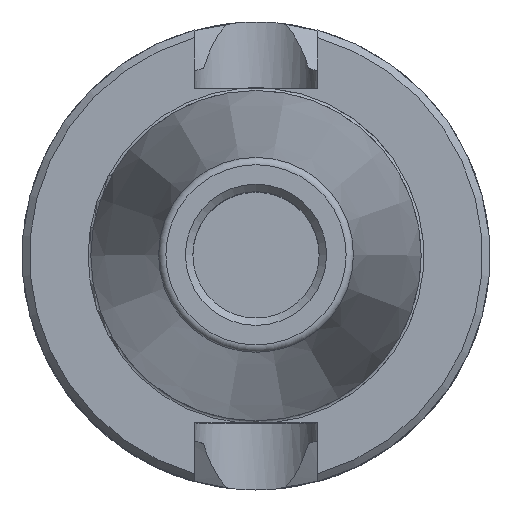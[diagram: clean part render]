
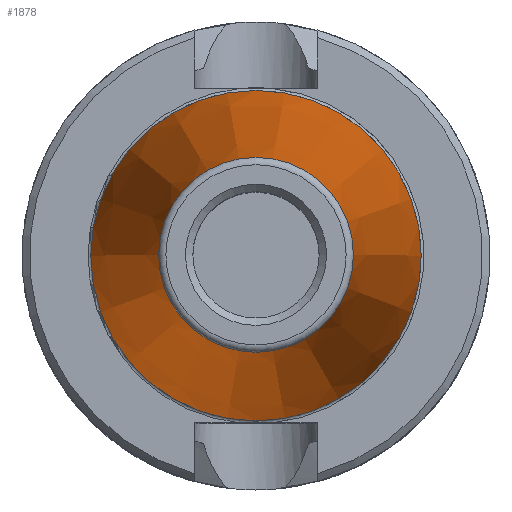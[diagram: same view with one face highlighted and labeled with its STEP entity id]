
A CAD part, top view. The second image highlights one B-rep face of the part: STEP entity #1878.
In plain terms, the highlighted conical face has half-angle 7.978 degrees and reference radius 17.625 mm.
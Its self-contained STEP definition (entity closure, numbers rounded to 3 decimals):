
#64=CONICAL_SURFACE('',#2100,17.625,0.139);
#196=CIRCLE('',#2094,22.25);
#197=CIRCLE('',#2095,22.25);
#199=CIRCLE('',#2098,13.121);
#200=CIRCLE('',#2099,13.121);
#358=FACE_OUTER_BOUND('',#467,.T.);
#467=EDGE_LOOP('',(#1586,#1587,#1588,#1589,#1590,#1591));
#583=LINE('',#3862,#707);
#707=VECTOR('',#2501,17.625);
#877=VERTEX_POINT('',#3850);
#878=VERTEX_POINT('',#3851);
#879=VERTEX_POINT('',#3856);
#880=VERTEX_POINT('',#3858);
#1123=EDGE_CURVE('',#877,#878,#196,.T.);
#1124=EDGE_CURVE('',#878,#877,#197,.T.);
#1127=EDGE_CURVE('',#879,#880,#199,.T.);
#1128=EDGE_CURVE('',#880,#879,#200,.T.);
#1129=EDGE_CURVE('',#879,#878,#583,.T.);
#1586=ORIENTED_EDGE('',*,*,#1128,.F.);
#1587=ORIENTED_EDGE('',*,*,#1127,.F.);
#1588=ORIENTED_EDGE('',*,*,#1129,.T.);
#1589=ORIENTED_EDGE('',*,*,#1124,.T.);
#1590=ORIENTED_EDGE('',*,*,#1123,.T.);
#1591=ORIENTED_EDGE('',*,*,#1129,.F.);
#1878=ADVANCED_FACE('',(#358),#64,.T.);
#2094=AXIS2_PLACEMENT_3D('',#3852,#2486,#2487);
#2095=AXIS2_PLACEMENT_3D('',#3853,#2488,#2489);
#2098=AXIS2_PLACEMENT_3D('',#3859,#2495,#2496);
#2099=AXIS2_PLACEMENT_3D('',#3860,#2497,#2498);
#2100=AXIS2_PLACEMENT_3D('',#3861,#2499,#2500);
#2486=DIRECTION('center_axis',(0.,0.,1.));
#2487=DIRECTION('ref_axis',(1.,0.,0.));
#2488=DIRECTION('center_axis',(0.,0.,1.));
#2489=DIRECTION('ref_axis',(1.,0.,0.));
#2495=DIRECTION('center_axis',(0.,0.,
1.));
#2496=DIRECTION('ref_axis',(-1.,0.,0.));
#2497=DIRECTION('center_axis',(0.,0.,
1.));
#2498=DIRECTION('ref_axis',(-1.,0.,0.));
#2499=DIRECTION('center_axis',(0.,0.,-1.));
#2500=DIRECTION('ref_axis',(1.,0.,0.));
#2501=DIRECTION('',(-0.139,0.,-0.99));
#3850=CARTESIAN_POINT('',(22.25,0.,-66.));
#3851=CARTESIAN_POINT('',(-22.25,0.,-66.));
#3852=CARTESIAN_POINT('Origin',(0.,0.,-66.));
#3853=CARTESIAN_POINT('Origin',(0.,0.,-66.));
#3856=CARTESIAN_POINT('',(-13.121,0.,-0.861));
#3858=CARTESIAN_POINT('',(13.121,0.,-0.861));
#3859=CARTESIAN_POINT('Origin',(0.,0.,
-0.861));
#3860=CARTESIAN_POINT('Origin',(0.,0.,
-0.861));
#3861=CARTESIAN_POINT('Origin',(0.,0.,-33.));
#3862=CARTESIAN_POINT('',(-17.625,0.,-33.));
